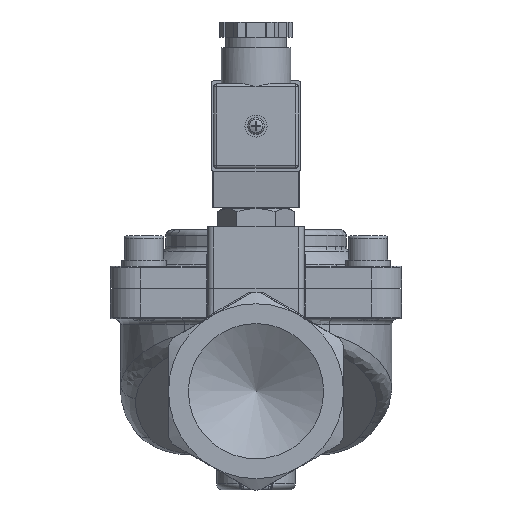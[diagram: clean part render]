
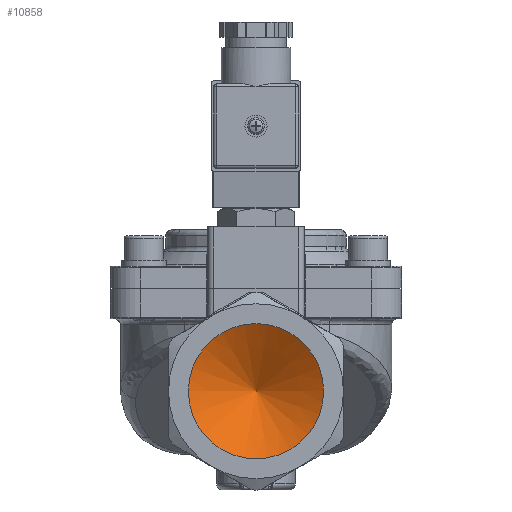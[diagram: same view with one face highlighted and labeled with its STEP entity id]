
A CAD part, front view. The second image highlights one B-rep face of the part: STEP entity #10858.
In plain terms, the highlighted conical face has half-angle 59 degrees and reference radius 11.211 mm.
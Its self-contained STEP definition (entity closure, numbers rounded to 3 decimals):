
#348=CONICAL_SURFACE('',#11774,11.211,1.03);
#682=LINE('',#16363,#1467);
#1467=VECTOR('',#13090,11.211);
#2486=FACE_OUTER_BOUND('',#3160,.T.);
#3160=EDGE_LOOP('',(#7256,#7257,#7258,#7259));
#3895=CIRCLE('',#11775,22.423);
#3896=CIRCLE('',#11776,22.423);
#4460=VERTEX_POINT('',#16359);
#4461=VERTEX_POINT('',#16360);
#4462=VERTEX_POINT('',#16362);
#5539=EDGE_CURVE('',#4460,#4461,#3895,.T.);
#5540=EDGE_CURVE('',#4461,#4462,#682,.T.);
#5541=EDGE_CURVE('',#4461,#4460,#3896,.T.);
#7256=ORIENTED_EDGE('',*,*,#5539,.T.);
#7257=ORIENTED_EDGE('',*,*,#5540,.T.);
#7258=ORIENTED_EDGE('',*,*,#5540,.F.);
#7259=ORIENTED_EDGE('',*,*,#5541,.T.);
#10858=ADVANCED_FACE('',(#2486),#348,.F.);
#11774=AXIS2_PLACEMENT_3D('',#16358,#13086,#13087);
#11775=AXIS2_PLACEMENT_3D('',#16361,#13088,#13089);
#11776=AXIS2_PLACEMENT_3D('',#16364,#13091,#13092);
#13086=DIRECTION('center_axis',(0.,-1.,0.));
#13087=DIRECTION('ref_axis',(1.,0.,0.));
#13088=DIRECTION('center_axis',(0.,-1.,0.));
#13089=DIRECTION('ref_axis',(1.,0.,0.));
#13090=DIRECTION('',(0.857,0.515,0.));
#13091=DIRECTION('center_axis',(0.,-1.,0.));
#13092=DIRECTION('ref_axis',(1.,0.,0.));
#16358=CARTESIAN_POINT('Origin',(0.,33.236,0.));
#16359=CARTESIAN_POINT('',(22.423,26.5,0.));
#16360=CARTESIAN_POINT('',(-22.423,26.5,0.));
#16361=CARTESIAN_POINT('Origin',(0.,26.5,0.));
#16362=CARTESIAN_POINT('',(0.,39.973,0.));
#16363=CARTESIAN_POINT('',(-11.211,33.236,0.));
#16364=CARTESIAN_POINT('Origin',(0.,26.5,0.));
